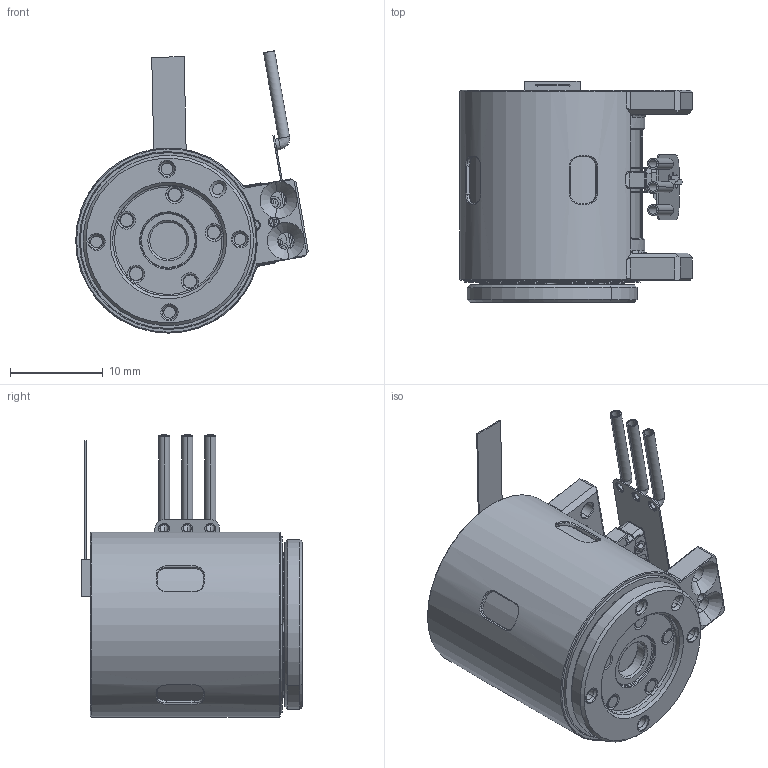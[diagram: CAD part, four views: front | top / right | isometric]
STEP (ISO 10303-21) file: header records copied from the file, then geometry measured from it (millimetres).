
FILE_DESCRIPTION((''),'2;1');
FILE_NAME('020200000002_ASM','2025-10-09T',('24143'),(''),'CREO PARAMETRIC BY PTC INC, 2018360','CREO PARAMETRIC BY PTC INC, 2018360','');
FILE_SCHEMA(('CONFIG_CONTROL_DESIGN'));
Length unit declared in the file: millimetre
Products named in the file (38): 022700000001_7_1_1_1_1_1_1_2_3_; CU_1_1_1_2_1_1_1_1_1_2_3_1_1_1; CU_2_1_1_2_1_1_1_1_1_2_3_1_1_1; 022600000001_ASM_19_1_ASM_1_A_5_ASM; 022700000001-ZK_5_1_1_1_1_1_1_3; CU_1_1_1_1_1_1_1_2_3_4_1_1_1; 022700000001_ASM_7_1_ASM_1_AS_5_ASM; 021400000001_ASM_31_1_ASM_1_A_5_ASM; 022700000001_7_1_1_1_1_2_1_1__3; CU_1_1_1_1_1_1_1_1_1_1; CU_2_1_1_1_1_1_1_2_3_4_1_1_1; 220000000003_ASM_9_1_ASM_1_AS_5_ASM; 021400000002_ASM_19_1_ASM_1_A_5_ASM; 021100000001_ASM_18_1_ASM_1_A_5_ASM; 023500000004_3_1_2_1_1_1_1_1__3; 024300000001_8_1_2_1_1_1_1_1__3; 020600000001_ASM_7_1_2_ASM_1__5_ASM; 025000000002_AF0_1_1_1_1_2_1__4; 025300000001_1_1_1_1_2_1_1_1__3; 025000000001_ASM_1_1_ASM_1_1__5_ASM; ASM0003_ASM_1_1_2_ASM_1_ASM_1_4_ASM; 062700000002_3_1_1_1_1_1_1_2_3_; 200000000003_3_1_1_1_1_1_1_1__3; 000200000001_ASM_103_1_ASM_1__5_ASM; 1111_1_1_1_1_1_1_2_3_1_1_1; 020200000001_ASM_26_ASM_1_ASM_6_ASM; 020200000001_ASM_ASM_1_ASM_1__4_ASM; ASM0002_ASM_1_ASM_1_ASM_1_1_2_3_ASM; ASM0002_ASM_1_1_ASM_1_1_2_3_ASM_ASM; PRT0008_1_1_2_3_1_1_1; ASM0006_ASM_1_1_2_3_ASM_1_ASM_1_ASM; ASM0012_ASM_1_ASM_1_ASM_1_ASM; 024200000002_1_1; 020200000011_ASM_1_ASM_1_ASM; 023000000001_52_1_2; 20MM-360-MOTOR_ASM_1_ASM; 024800000001_1_1_1_1_1_1_1_1; 020200000002_ASM
Assembly tree (55 placements, depth 14):
  020200000002_ASM
    20MM-360-MOTOR_ASM_1_ASM
      020200000011_ASM_1_ASM_1_ASM
        ASM0012_ASM_1_ASM_1_ASM_1_ASM
          ASM0006_ASM_1_1_2_3_ASM_1_ASM_1_ASM
            ASM0002_ASM_1_1_ASM_1_1_2_3_ASM_ASM
              ASM0002_ASM_1_ASM_1_ASM_1_1_2_3_ASM
                020200000001_ASM_ASM_1_ASM_1__4_ASM
                  020200000001_ASM_26_ASM_1_ASM_6_ASM
            PRT0008_1_1_2_3_1_1_1
        024200000002_1_1
      023000000001_52_1_2
    024800000001_1_1_1_1_1_1_1_1
Bounding box: 25.13 x 23.85 x 30.49 mm (x, y, z)
Volume: 6357.1 mm3; surface area: 7039.7 mm2
Topology: 37 solids, 41 shells, 894 faces, 2421 edges, 1576 vertices
Faces by surface type: cylinder 315, plane 292, torus 123, cone 94, bspline 70
Entity records: 29315 total; most frequent: CARTESIAN_POINT 8680, DIRECTION 4501, ORIENTED_EDGE 4110, EDGE_CURVE 2071, AXIS2_PLACEMENT_3D 1825, VERTEX_POINT 1362, CIRCLE 1005, VECTOR 851
